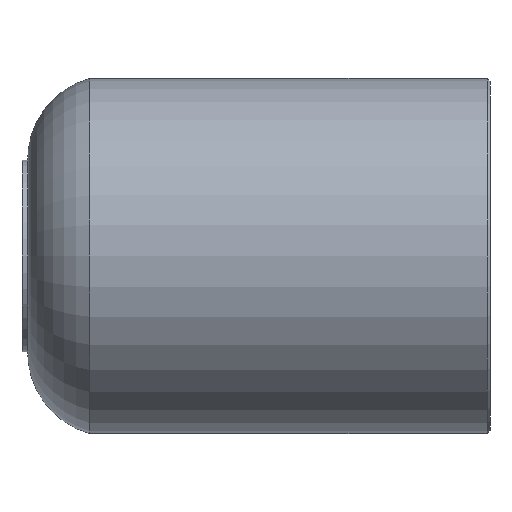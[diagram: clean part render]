
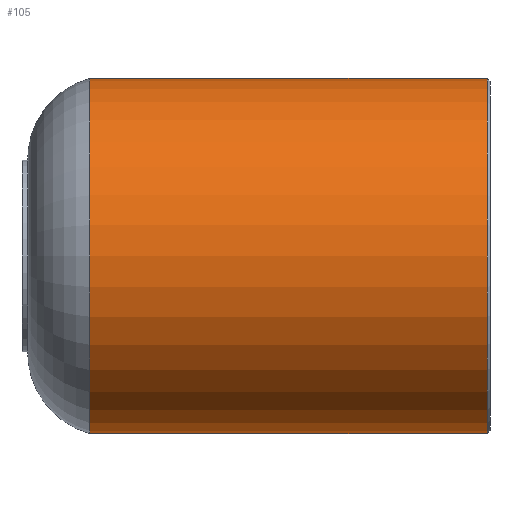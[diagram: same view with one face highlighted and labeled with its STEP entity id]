
A CAD part, front view. The second image highlights one B-rep face of the part: STEP entity #105.
In plain terms, the highlighted cylindrical face has radius 31.5 mm (diameter 63 mm), a full revolution.
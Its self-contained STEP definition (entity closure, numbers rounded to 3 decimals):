
#24=CYLINDRICAL_SURFACE('',#131,31.5);
#32=ORIENTED_EDGE('',*,*,#46,.T.);
#33=ORIENTED_EDGE('',*,*,#45,.F.);
#45=EDGE_CURVE('',#53,#53,#61,.T.);
#46=EDGE_CURVE('',#54,#54,#62,.F.);
#53=VERTEX_POINT('',#188);
#54=VERTEX_POINT('',#191);
#61=CIRCLE('',#130,31.5);
#62=CIRCLE('',#132,31.5);
#72=EDGE_LOOP('',(#32));
#73=EDGE_LOOP('',(#33));
#88=FACE_BOUND('',#72,.T.);
#89=FACE_BOUND('',#73,.T.);
#105=ADVANCED_FACE('',(#88,#89),#24,.T.);
#130=AXIS2_PLACEMENT_3D('',#187,#156,#157);
#131=AXIS2_PLACEMENT_3D('',#189,#158,#159);
#132=AXIS2_PLACEMENT_3D('',#190,#160,#161);
#156=DIRECTION('',(-1.,0.,0.));
#157=DIRECTION('',(0.,0.,1.));
#158=DIRECTION('',(-1.,0.,0.));
#159=DIRECTION('',(0.,0.,1.));
#160=DIRECTION('',(1.,0.,0.));
#161=DIRECTION('',(0.,0.,-1.));
#187=CARTESIAN_POINT('',(-35.5,0.,0.));
#188=CARTESIAN_POINT('',(-35.5,0.,31.5));
#189=CARTESIAN_POINT('',(-38.5,0.,0.));
#190=CARTESIAN_POINT('',(35.,0.,0.));
#191=CARTESIAN_POINT('',(35.,0.,-31.5));
